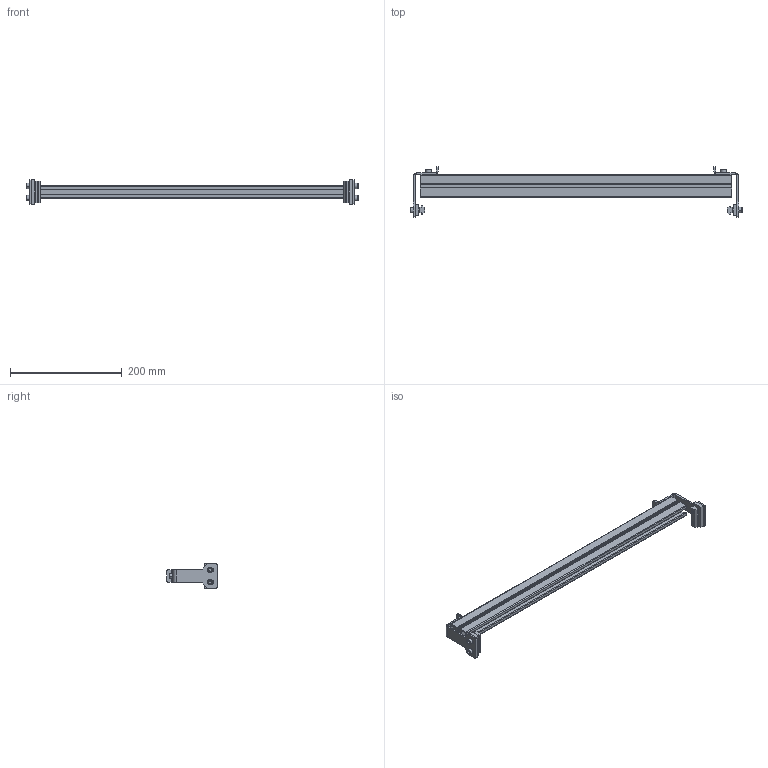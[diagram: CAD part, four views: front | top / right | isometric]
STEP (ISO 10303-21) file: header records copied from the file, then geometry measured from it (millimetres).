
FILE_DESCRIPTION (( 'STEP AP203' ), '1' );
FILE_NAME ('207137-22.STEP', '2023-03-01T21:17:06', ( '' ), ( '' ), 'SwSTEP 2.0', 'SolidWorks 2020', '' );
FILE_SCHEMA (( 'CONFIG_CONTROL_DESIGN' ));
Length unit declared in the file: inch
Products named in the file (8): 207137-22; 639971M_CAE; 200626M; 9206XXM_920620M; 207135-WW_207135-22; 207134; 9206XXM_920614M; 202444
Assembly tree (15 placements, depth 2):
  207137-22
    207134  x2
    207135-WW_207135-22
    202444  x2
    200626M  x2
    639971M_CAE  x2
    9206XXM_920614M  x2
    9206XXM_920620M  x4
Bounding box: 594.57 x 90.68 x 44.45 mm (x, y, z)
Volume: 271653.7 mm3; surface area: 166952 mm2
Topology: 15 solids, 15 shells, 432 faces, 1042 edges, 652 vertices
Faces by surface type: plane 258, cylinder 108, cone 66
Entity records: 8328 total; most frequent: CARTESIAN_POINT 1374, DIRECTION 1230, ORIENTED_EDGE 1212, EDGE_CURVE 606, VECTOR 462, LINE 462, VERTEX_POINT 388, AXIS2_PLACEMENT_3D 384
